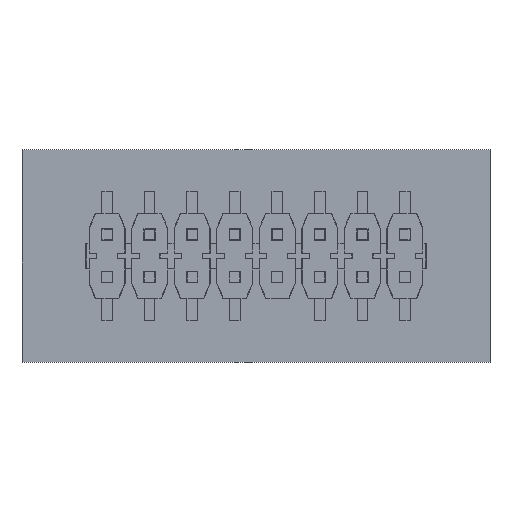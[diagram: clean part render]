
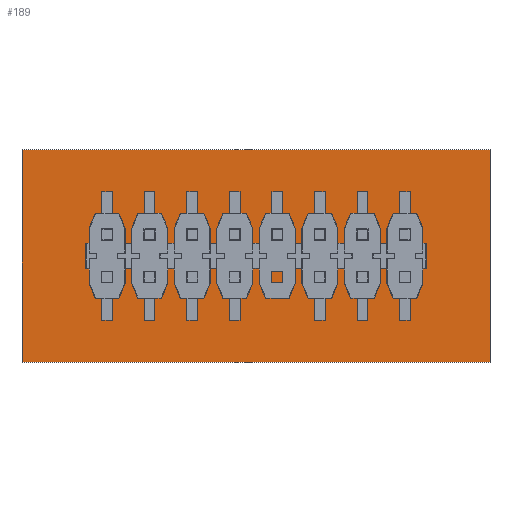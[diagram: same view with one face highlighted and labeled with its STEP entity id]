
A CAD part, top view. The second image highlights one B-rep face of the part: STEP entity #189.
In plain terms, the highlighted planar face has unit normal (0, 0, 1).
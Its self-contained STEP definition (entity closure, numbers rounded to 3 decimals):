
#60 = VERTEX_POINT('',#61);
#61 = CARTESIAN_POINT('',(0.,0.,1.514));
#67 = EDGE_CURVE('',#60,#68,#70,.T.);
#68 = VERTEX_POINT('',#69);
#69 = CARTESIAN_POINT('',(0.,12.7,1.514));
#70 = LINE('',#71,#72);
#71 = CARTESIAN_POINT('',(0.,0.,1.514));
#72 = VECTOR('',#73,1.);
#73 = DIRECTION('',(0.,1.,0.));
#98 = EDGE_CURVE('',#68,#99,#101,.T.);
#99 = VERTEX_POINT('',#100);
#100 = CARTESIAN_POINT('',(27.94,12.7,1.514));
#101 = LINE('',#102,#103);
#102 = CARTESIAN_POINT('',(0.,12.7,1.514));
#103 = VECTOR('',#104,1.);
#104 = DIRECTION('',(1.,0.,0.));
#129 = EDGE_CURVE('',#99,#130,#132,.T.);
#130 = VERTEX_POINT('',#131);
#131 = CARTESIAN_POINT('',(27.94,0.,1.514));
#132 = LINE('',#133,#134);
#133 = CARTESIAN_POINT('',(27.94,12.7,1.514));
#134 = VECTOR('',#135,1.);
#135 = DIRECTION('',(0.,-1.,0.));
#160 = EDGE_CURVE('',#130,#60,#161,.T.);
#161 = LINE('',#162,#163);
#162 = CARTESIAN_POINT('',(27.94,0.,1.514));
#163 = VECTOR('',#164,1.);
#164 = DIRECTION('',(-1.,0.,0.));
#189 = ADVANCED_FACE('',(#190),#196,.F.);
#190 = FACE_BOUND('',#191,.F.);
#191 = EDGE_LOOP('',(#192,#193,#194,#195));
#192 = ORIENTED_EDGE('',*,*,#67,.T.);
#193 = ORIENTED_EDGE('',*,*,#98,.T.);
#194 = ORIENTED_EDGE('',*,*,#129,.T.);
#195 = ORIENTED_EDGE('',*,*,#160,.T.);
#196 = PLANE('',#197);
#197 = AXIS2_PLACEMENT_3D('',#198,#199,#200);
#198 = CARTESIAN_POINT('',(13.97,6.35,1.514));
#199 = DIRECTION('',(-0.,-0.,-1.));
#200 = DIRECTION('',(-1.,0.,0.));
